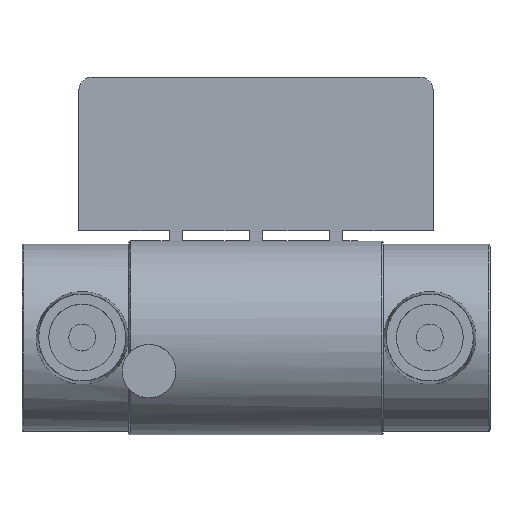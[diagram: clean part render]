
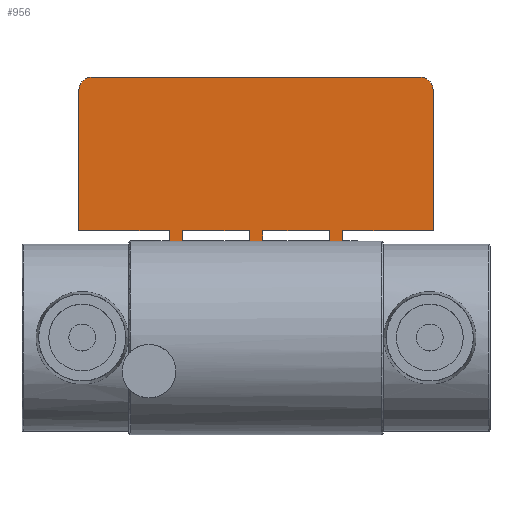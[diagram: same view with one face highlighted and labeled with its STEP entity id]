
A CAD part, top view. The second image highlights one B-rep face of the part: STEP entity #956.
In plain terms, the highlighted planar face has unit normal (0, 0, 1).
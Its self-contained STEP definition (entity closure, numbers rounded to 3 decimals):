
#87=CIRCLE('',#1052,2.);
#89=CIRCLE('',#1067,2.);
#274=ORIENTED_EDGE('',*,*,#412,.F.);
#275=ORIENTED_EDGE('',*,*,#451,.F.);
#276=ORIENTED_EDGE('',*,*,#448,.F.);
#277=ORIENTED_EDGE('',*,*,#445,.F.);
#278=ORIENTED_EDGE('',*,*,#442,.F.);
#279=ORIENTED_EDGE('',*,*,#439,.F.);
#280=ORIENTED_EDGE('',*,*,#370,.F.);
#281=ORIENTED_EDGE('',*,*,#436,.F.);
#282=ORIENTED_EDGE('',*,*,#434,.F.);
#283=ORIENTED_EDGE('',*,*,#431,.F.);
#284=ORIENTED_EDGE('',*,*,#360,.F.);
#285=ORIENTED_EDGE('',*,*,#428,.F.);
#286=ORIENTED_EDGE('',*,*,#426,.F.);
#287=ORIENTED_EDGE('',*,*,#423,.F.);
#288=ORIENTED_EDGE('',*,*,#374,.F.);
#289=ORIENTED_EDGE('',*,*,#420,.F.);
#290=ORIENTED_EDGE('',*,*,#418,.F.);
#291=ORIENTED_EDGE('',*,*,#415,.F.);
#360=EDGE_CURVE('',#478,#479,#568,.T.);
#370=EDGE_CURVE('',#487,#489,#571,.T.);
#374=EDGE_CURVE('',#491,#493,#573,.T.);
#412=EDGE_CURVE('',#526,#527,#87,.T.);
#415=EDGE_CURVE('',#527,#529,#582,.T.);
#418=EDGE_CURVE('',#529,#531,#585,.T.);
#420=EDGE_CURVE('',#531,#491,#587,.T.);
#423=EDGE_CURVE('',#493,#533,#590,.T.);
#426=EDGE_CURVE('',#533,#535,#593,.T.);
#428=EDGE_CURVE('',#535,#478,#595,.T.);
#431=EDGE_CURVE('',#479,#537,#598,.T.);
#434=EDGE_CURVE('',#537,#539,#601,.T.);
#436=EDGE_CURVE('',#539,#487,#603,.T.);
#439=EDGE_CURVE('',#489,#541,#606,.T.);
#442=EDGE_CURVE('',#541,#543,#609,.T.);
#445=EDGE_CURVE('',#543,#545,#612,.T.);
#448=EDGE_CURVE('',#545,#547,#89,.T.);
#451=EDGE_CURVE('',#547,#526,#616,.T.);
#478=VERTEX_POINT('',#1403);
#479=VERTEX_POINT('',#1404);
#487=VERTEX_POINT('',#1434);
#489=VERTEX_POINT('',#1437);
#491=VERTEX_POINT('',#1442);
#493=VERTEX_POINT('',#1445);
#526=VERTEX_POINT('',#1590);
#527=VERTEX_POINT('',#1592);
#529=VERTEX_POINT('',#1598);
#531=VERTEX_POINT('',#1604);
#533=VERTEX_POINT('',#1613);
#535=VERTEX_POINT('',#1619);
#537=VERTEX_POINT('',#1628);
#539=VERTEX_POINT('',#1634);
#541=VERTEX_POINT('',#1643);
#543=VERTEX_POINT('',#1649);
#545=VERTEX_POINT('',#1655);
#547=VERTEX_POINT('',#1661);
#568=LINE('',#1402,#639);
#571=LINE('',#1436,#642);
#573=LINE('',#1444,#644);
#582=LINE('',#1597,#653);
#585=LINE('',#1603,#656);
#587=LINE('',#1607,#658);
#590=LINE('',#1612,#661);
#593=LINE('',#1618,#664);
#595=LINE('',#1622,#666);
#598=LINE('',#1627,#669);
#601=LINE('',#1633,#672);
#603=LINE('',#1637,#674);
#606=LINE('',#1642,#677);
#609=LINE('',#1648,#680);
#612=LINE('',#1654,#683);
#616=LINE('',#1665,#687);
#639=VECTOR('',#1124,1000.);
#642=VECTOR('',#1137,1000.);
#644=VECTOR('',#1143,1000.);
#653=VECTOR('',#1262,1000.);
#656=VECTOR('',#1267,1000.);
#658=VECTOR('',#1271,1000.);
#661=VECTOR('',#1276,1000.);
#664=VECTOR('',#1281,1000.);
#666=VECTOR('',#1285,1000.);
#669=VECTOR('',#1290,1000.);
#672=VECTOR('',#1295,1000.);
#674=VECTOR('',#1299,1000.);
#677=VECTOR('',#1304,1000.);
#680=VECTOR('',#1309,1000.);
#683=VECTOR('',#1314,1000.);
#687=VECTOR('',#1326,1000.);
#775=EDGE_LOOP('',(#274,#275,#276,#277,#278,#279,#280,#281,#282,#283,#284,
#285,#286,#287,#288,#289,#290,#291));
#861=FACE_BOUND('',#775,.T.);
#900=PLANE('',#1069);
#956=ADVANCED_FACE('',(#861),#900,.F.);
#1052=AXIS2_PLACEMENT_3D('',#1591,#1256,#1257);
#1067=AXIS2_PLACEMENT_3D('',#1660,#1320,#1321);
#1069=AXIS2_PLACEMENT_3D('',#1666,#1327,#1328);
#1124=DIRECTION('',(-1.,0.,0.));
#1137=DIRECTION('',(-1.,0.,0.));
#1143=DIRECTION('',(-1.,0.,0.));
#1256=DIRECTION('',(0.,0.,-1.));
#1257=DIRECTION('',(-1.,0.,0.));
#1262=DIRECTION('',(0.,-1.,0.));
#1267=DIRECTION('',(-1.,0.,0.));
#1271=DIRECTION('',(0.,-1.,0.));
#1276=DIRECTION('',(0.,1.,0.));
#1281=DIRECTION('',(-1.,0.,0.));
#1285=DIRECTION('',(0.,-1.,0.));
#1290=DIRECTION('',(0.,1.,0.));
#1295=DIRECTION('',(-1.,0.,0.));
#1299=DIRECTION('',(0.,-1.,0.));
#1304=DIRECTION('',(0.,1.,0.));
#1309=DIRECTION('',(-1.,0.,0.));
#1314=DIRECTION('',(0.,1.,0.));
#1320=DIRECTION('',(0.,0.,-1.));
#1321=DIRECTION('',(1.,0.,0.));
#1326=DIRECTION('',(1.,0.,0.));
#1327=DIRECTION('',(0.,0.,-1.));
#1328=DIRECTION('',(-1.,0.,0.));
#1402=CARTESIAN_POINT('',(-60.,14.491,0.5));
#1403=CARTESIAN_POINT('',(1.,14.491,0.5));
#1404=CARTESIAN_POINT('',(-1.,14.491,0.5));
#1434=CARTESIAN_POINT('',(-11.,14.491,0.5));
#1436=CARTESIAN_POINT('',(-60.,14.491,0.5));
#1437=CARTESIAN_POINT('',(-13.,14.491,0.5));
#1442=CARTESIAN_POINT('',(13.,14.491,0.5));
#1444=CARTESIAN_POINT('',(-60.,14.491,0.5));
#1445=CARTESIAN_POINT('',(11.,14.491,0.5));
#1590=CARTESIAN_POINT('',(24.5,39.,0.5));
#1591=CARTESIAN_POINT('',(24.5,37.,0.5));
#1592=CARTESIAN_POINT('',(26.5,37.,0.5));
#1597=CARTESIAN_POINT('',(26.5,37.,0.5));
#1598=CARTESIAN_POINT('',(26.5,16.,0.5));
#1603=CARTESIAN_POINT('',(26.5,16.,0.5));
#1604=CARTESIAN_POINT('',(13.,16.,0.5));
#1607=CARTESIAN_POINT('',(13.,16.,0.5));
#1612=CARTESIAN_POINT('',(11.,16.,0.5));
#1613=CARTESIAN_POINT('',(11.,16.,0.5));
#1618=CARTESIAN_POINT('',(11.,16.,0.5));
#1619=CARTESIAN_POINT('',(1.,16.,0.5));
#1622=CARTESIAN_POINT('',(1.,16.,0.5));
#1627=CARTESIAN_POINT('',(-1.,16.,0.5));
#1628=CARTESIAN_POINT('',(-1.,16.,0.5));
#1633=CARTESIAN_POINT('',(-1.,16.,0.5));
#1634=CARTESIAN_POINT('',(-11.,16.,0.5));
#1637=CARTESIAN_POINT('',(-11.,16.,0.5));
#1642=CARTESIAN_POINT('',(-13.,16.,0.5));
#1643=CARTESIAN_POINT('',(-13.,16.,0.5));
#1648=CARTESIAN_POINT('',(-13.,16.,0.5));
#1649=CARTESIAN_POINT('',(-26.5,16.,0.5));
#1654=CARTESIAN_POINT('',(-26.5,16.,0.5));
#1655=CARTESIAN_POINT('',(-26.5,37.,0.5));
#1660=CARTESIAN_POINT('',(-24.5,37.,0.5));
#1661=CARTESIAN_POINT('',(-24.5,39.,0.5));
#1665=CARTESIAN_POINT('',(-24.5,39.,0.5));
#1666=CARTESIAN_POINT('',(24.5,37.,0.5));
